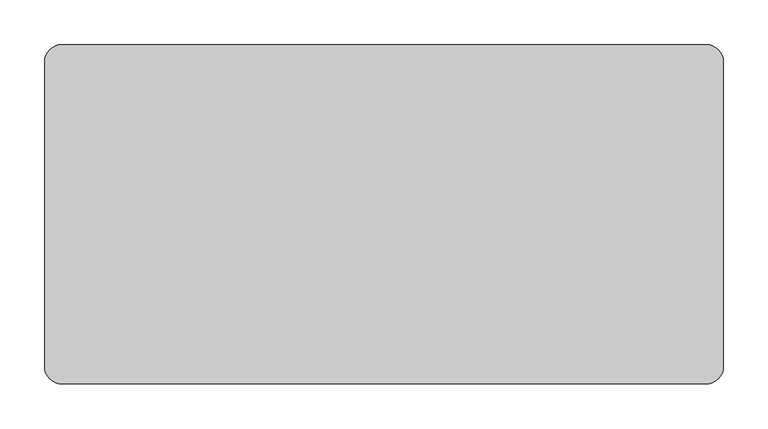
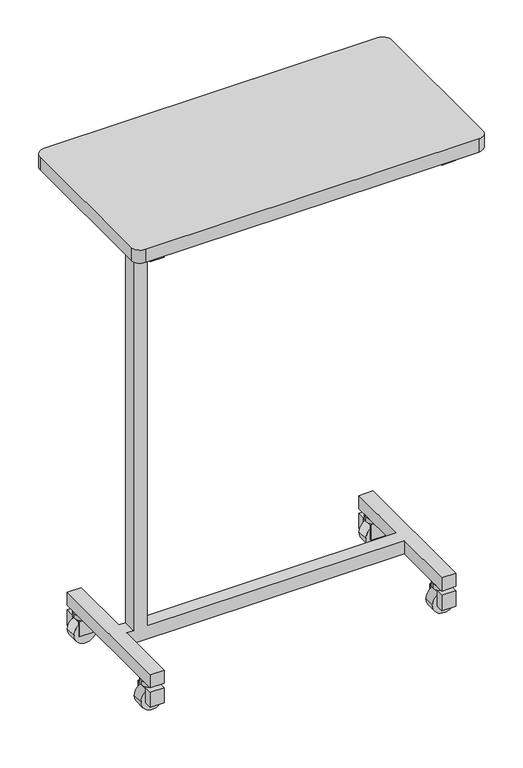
"""IFC4 building model written with IfcOpenShell, lengths in millimetres: proxy geometry, BIMHealth-Table_Overbed-LOD2A-v1 : BIMHealth-Table_Overbed-LOD2A-v1."""

from ifc_helpers import new_model, si_unit, point, frame, frame_2d, origin, place, context, project, spatial, polyline, circle_curve, trimmed, segment, composite_curve, outline, extrude, faceted_brep, source, transform, mapped, element, save


def generic_models_eee01dc3(model_context):
    return source(origin(), model_context, "Body", "SolidModel", [
        faceted_brep([(50.0, -35.0, 1070.0), (50.0, -346.0, 1070.0), (80.0, -346.0, 1070.0), (80.0, -205.5, 1070.0), (682.0, -205.5, 1070.0), (682.0, -346.0, 1070.0), (712.0, -346.0, 1070.0), (712.0, -35.0, 1070.0), (682.0, -35.0, 1070.0), (682.0, -175.5, 1070.0), (80.0, -175.5, 1070.0), (80.0, -35.0, 1070.0), (50.0, -35.0, 1040.0), (80.0, -35.0, 1040.0), (80.0, -175.5, 1040.0), (95.0, -175.5, 1040.0), (95.0, -205.5, 1040.0), (80.0, -205.5, 1040.0), (80.0, -346.0, 1040.0), (50.0, -346.0, 1040.0), (682.0, -175.5, 1040.0), (682.0, -35.0, 1040.0), (712.0, -35.0, 1040.0), (712.0, -346.0, 1040.0), (682.0, -346.0, 1040.0), (682.0, -205.5, 1040.0), (125.0, -205.5, 1040.0), (125.0, -175.5, 1040.0), (95.0, -205.5, 95.0), (80.0, -205.5, 95.0), (80.0, -205.5, 65.0), (682.0, -205.5, 65.0), (682.0, -205.5, 95.0), (125.0, -205.5, 95.0), (125.0, -175.5, 95.0), (682.0, -175.5, 95.0), (682.0, -175.5, 65.0), (80.0, -175.5, 65.0), (80.0, -175.5, 95.0), (95.0, -175.5, 95.0), (50.0, -35.0, 95.0), (50.0, -346.0, 95.0), (80.0, -346.0, 95.0), (80.0, -35.0, 95.0), (682.0, -346.0, 95.0), (712.0, -346.0, 95.0), (712.0, -35.0, 95.0), (682.0, -35.0, 95.0), (50.0, -35.0, 65.0), (80.0, -35.0, 65.0), (682.0, -35.0, 65.0), (712.0, -35.0, 65.0), (712.0, -346.0, 65.0), (682.0, -346.0, 65.0), (80.0, -346.0, 65.0), (50.0, -346.0, 65.0)], [[[0, 1, 2, 3, 4, 5, 6, 7, 8, 9, 10, 11]], [[12, 13, 14, 15, 16, 17, 18, 19]], [[20, 21, 22, 23, 24, 25, 26, 27]], [[1, 0, 12, 19]], [[2, 1, 19, 18]], [[3, 2, 18, 17]], [[4, 3, 17, 16, 28, 29, 30, 31, 32, 33, 26, 25]], [[5, 4, 25, 24]], [[6, 5, 24, 23]], [[7, 6, 23, 22]], [[8, 7, 22, 21]], [[9, 8, 21, 20]], [[10, 9, 20, 27, 34, 35, 36, 37, 38, 39, 15, 14]], [[11, 10, 14, 13]], [[0, 11, 13, 12]], [[26, 33, 34, 27]], [[28, 16, 15, 39]], [[40, 41, 42, 29, 28, 39, 38, 43]], [[32, 44, 45, 46, 47, 35, 34, 33]], [[48, 49, 37, 36, 50, 51, 52, 53, 31, 30, 54, 55]], [[41, 40, 48, 55]], [[42, 41, 55, 54]], [[29, 42, 54, 30]], [[44, 32, 31, 53]], [[45, 44, 53, 52]], [[46, 45, 52, 51]], [[47, 46, 51, 50]], [[35, 47, 50, 36]], [[43, 38, 37, 49]], [[40, 43, 49, 48]]]),
        extrude(outline(composite_curve([segment(trimmed(circle_curve(frame_2d((697.0, -316.0)), 17.5), [point((714.5, -316.0))], [point((679.5, -316.0))], False, "CARTESIAN"), True, "CONTINUOUS"), segment(trimmed(circle_curve(frame_2d((697.0, -316.0)), 17.5), [point((679.5, -316.0))], [point((714.5, -316.0))], False, "CARTESIAN"), True, "CONTINUOUS")], self_intersect=False)), frame((0.0, 0.0, 55.0), z_axis=(0.0, 0.0, 1.0), x_axis=(1.0, 0.0, 0.0)), (0.0, 0.0, 1.0), 10.0),
        extrude(outline(composite_curve([segment(trimmed(circle_curve(frame_2d((25.0, 697.0)), 25.0), [point((25.0, 722.0))], [point((25.0, 672.0))], False, "CARTESIAN"), True, "CONTINUOUS"), segment(trimmed(circle_curve(frame_2d((25.0, 697.0)), 25.0), [point((25.0, 672.0))], [point((25.0, 722.0))], False, "CARTESIAN"), True, "CONTINUOUS")], self_intersect=False)), frame((0.0, -328.5, 0.0), z_axis=(0.0, 1.0, 0.0), x_axis=(0.0, 0.0, 1.0)), (0.0, 0.0, 1.0), 25.0),
        extrude(outline(polyline([(-346.0, 20.0), (-346.0, 55.0), (-301.0, 55.0), (-301.0, 20.0), (-303.5, 20.0), (-303.5, 52.5), (-328.5, 52.5), (-328.5, 20.0), (-346.0, 20.0)])), frame((682.0, 0.0, 0.0), z_axis=(1.0, 0.0, 0.0), x_axis=(0.0, 1.0, 0.0)), (0.0, 0.0, 1.0), 30.0),
        extrude(outline(composite_curve([segment(trimmed(circle_curve(frame_2d((65.0, -316.0)), 17.5), [point((47.5, -316.0))], [point((82.5, -316.0))], False, "CARTESIAN"), True, "CONTINUOUS"), segment(trimmed(circle_curve(frame_2d((65.0, -316.0)), 17.5), [point((82.5, -316.0))], [point((47.5, -316.0))], False, "CARTESIAN"), True, "CONTINUOUS")], self_intersect=False)), frame((0.0, 0.0, 55.0), z_axis=(0.0, 0.0, 1.0), x_axis=(1.0, 0.0, 0.0)), (0.0, 0.0, 1.0), 10.0),
        extrude(outline(composite_curve([segment(trimmed(circle_curve(frame_2d((25.0, 65.0)), 25.0), [point((25.0, 40.0))], [point((25.0, 90.0))], False, "CARTESIAN"), True, "CONTINUOUS"), segment(trimmed(circle_curve(frame_2d((25.0, 65.0)), 25.0), [point((25.0, 90.0))], [point((25.0, 40.0))], False, "CARTESIAN"), True, "CONTINUOUS")], self_intersect=False)), frame((0.0, -328.5, 0.0), z_axis=(0.0, 1.0, 0.0), x_axis=(0.0, 0.0, 1.0)), (0.0, 0.0, 1.0), 25.0),
        extrude(outline(polyline([(-346.0, 20.0), (-346.0, 55.0), (-301.0, 55.0), (-301.0, 20.0), (-303.5, 20.0), (-303.5, 52.5), (-328.5, 52.5), (-328.5, 20.0), (-346.0, 20.0)])), frame((50.0, 0.0, 0.0), z_axis=(1.0, 0.0, 0.0), x_axis=(0.0, 1.0, 0.0)), (0.0, 0.0, 1.0), 30.0),
        extrude(outline(composite_curve([segment(trimmed(circle_curve(frame_2d((697.0, -65.0)), 17.5), [point((714.5, -65.0))], [point((679.5, -65.0))], False, "CARTESIAN"), True, "CONTINUOUS"), segment(trimmed(circle_curve(frame_2d((697.0, -65.0)), 17.5), [point((679.5, -65.0))], [point((714.5, -65.0))], False, "CARTESIAN"), True, "CONTINUOUS")], self_intersect=False)), frame((0.0, 0.0, 55.0), z_axis=(0.0, 0.0, 1.0), x_axis=(1.0, 0.0, 0.0)), (0.0, 0.0, 1.0), 10.0),
        extrude(outline(composite_curve([segment(trimmed(circle_curve(frame_2d((25.0, 697.0)), 25.0), [point((25.0, 722.0))], [point((25.0, 672.0))], False, "CARTESIAN"), True, "CONTINUOUS"), segment(trimmed(circle_curve(frame_2d((25.0, 697.0)), 25.0), [point((25.0, 672.0))], [point((25.0, 722.0))], False, "CARTESIAN"), True, "CONTINUOUS")], self_intersect=False)), frame((0.0, -77.5, 0.0), z_axis=(0.0, 1.0, 0.0), x_axis=(0.0, 0.0, 1.0)), (0.0, 0.0, 1.0), 25.0),
        extrude(outline(polyline([(-35.0, 20.0), (-52.5, 20.0), (-52.5, 52.5), (-77.5, 52.5), (-77.5, 20.0), (-80.0, 20.0), (-80.0, 55.0), (-35.0, 55.0), (-35.0, 20.0)])), frame((682.0, 0.0, 0.0), z_axis=(1.0, 0.0, 0.0), x_axis=(0.0, 1.0, 0.0)), (0.0, 0.0, 1.0), 30.0),
        extrude(outline(composite_curve([segment(trimmed(circle_curve(frame_2d((65.0, -65.0)), 17.5), [point((47.5, -65.0))], [point((82.5, -65.0))], False, "CARTESIAN"), True, "CONTINUOUS"), segment(trimmed(circle_curve(frame_2d((65.0, -65.0)), 17.5), [point((82.5, -65.0))], [point((47.5, -65.0))], False, "CARTESIAN"), True, "CONTINUOUS")], self_intersect=False)), frame((0.0, 0.0, 55.0), z_axis=(0.0, 0.0, 1.0), x_axis=(1.0, 0.0, 0.0)), (0.0, 0.0, 1.0), 10.0),
        extrude(outline(composite_curve([segment(trimmed(circle_curve(frame_2d((25.0, 65.0)), 25.0), [point((25.0, 40.0))], [point((25.0, 90.0))], False, "CARTESIAN"), True, "CONTINUOUS"), segment(trimmed(circle_curve(frame_2d((25.0, 65.0)), 25.0), [point((25.0, 90.0))], [point((25.0, 40.0))], False, "CARTESIAN"), True, "CONTINUOUS")], self_intersect=False)), frame((0.0, -77.5, 0.0), z_axis=(0.0, 1.0, 0.0), x_axis=(0.0, 0.0, 1.0)), (0.0, 0.0, 1.0), 25.0),
        extrude(outline(polyline([(-35.0, 20.0), (-52.5, 20.0), (-52.5, 52.5), (-77.5, 52.5), (-77.5, 20.0), (-80.0, 20.0), (-80.0, 55.0), (-35.0, 55.0), (-35.0, 20.0)])), frame((50.0, 0.0, 0.0), z_axis=(1.0, 0.0, 0.0), x_axis=(0.0, 1.0, 0.0)), (0.0, 0.0, 1.0), 30.0),
        extrude(outline(composite_curve([segment(trimmed(circle_curve(frame_2d((742.0, -20.0)), 20.0), [point((742.0, 0.0))], [point((762.0, -20.0))], False, "CARTESIAN"), True, "CONTINUOUS"), segment(polyline([(762.0, -20.0), (762.0, -361.0)]), True, "CONTINUOUS"), segment(trimmed(circle_curve(frame_2d((742.0, -361.0)), 20.0), [point((762.0, -361.0))], [point((742.0, -381.0))], False, "CARTESIAN"), True, "CONTINUOUS"), segment(polyline([(742.0, -381.0), (20.0, -381.0)]), True, "CONTINUOUS"), segment(trimmed(circle_curve(frame_2d((20.0, -361.0)), 20.0), [point((20.0, -381.0))], [point((0.0, -361.0))], False, "CARTESIAN"), True, "CONTINUOUS"), segment(polyline([(0.0, -361.0), (0.0, -20.0)]), True, "CONTINUOUS"), segment(trimmed(circle_curve(frame_2d((20.0, -20.0)), 20.0), [point((0.0, -20.0))], [point((20.0, 0.0))], False, "CARTESIAN"), True, "CONTINUOUS"), segment(polyline([(20.0, 0.0), (742.0, 0.0)]), True, "CONTINUOUS")], self_intersect=False)), frame((0.0, 0.0, 1070.0), z_axis=(0.0, 0.0, 1.0), x_axis=(1.0, 0.0, 0.0)), (0.0, 0.0, 1.0), 30.0),
    ])


if __name__ == "__main__":
    model = new_model("IFC4")
    model_context = context("Model", 3, world=origin())
    ifc_project = project(units=[si_unit("LENGTHUNIT", "METRE", prefix="MILLI")], contexts=[model_context])
    site = spatial("IfcSite", under=ifc_project)
    building = spatial("IfcBuilding", under=site)
    placement = place(None, origin())
    generic_models_shape = generic_models_eee01dc3(model_context)
    element("IfcBuildingElementProxy", 1, Name="BIMHealth-Table_Overbed-LOD2A-v1 : BIMHealth-Table_Overbed-LOD2A-v1", ObjectType="BIMHealth-Table_Overbed-LOD2A-v1 : BIMHealth-Table_Overbed-LOD2A-v1", at=placement, inside=building, context=model_context, shape_type="MappedRepresentation", body=[
        mapped(generic_models_shape, transform((0.0, 0.0, 0.0), x_axis=(1.0, 0.0, 0.0), y_axis=(0.0, 1.0, 0.0), z_axis=(0.0, 0.0, 1.0))),
    ])
    save(model, "model.ifc")
